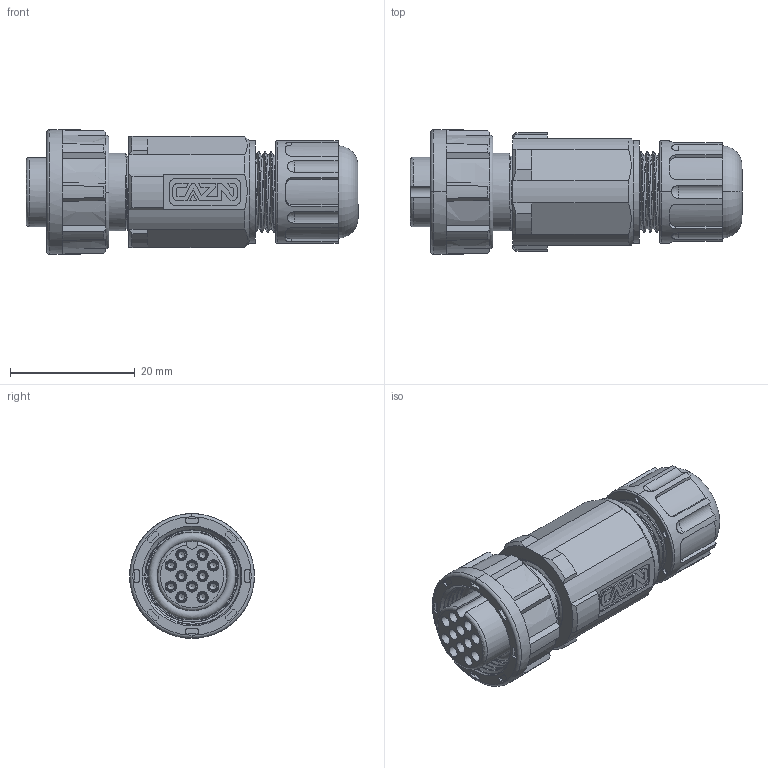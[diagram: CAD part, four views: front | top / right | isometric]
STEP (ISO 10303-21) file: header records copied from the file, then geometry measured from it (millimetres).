
FILE_DESCRIPTION(/* description */ (''),/* implementation_level */ '2;1');
FILE_NAME(/* name */ 'E10P-TA1-S12.stp',/* time_stamp */ '2022-11-01T19:49:52+08:00',/* author */ (''),/* organization */ (''),/* preprocessor_version */ 'ST-DEVELOPER v16.7',/* originating_system */ 'SIEMENS PLM Software NX 1847',/* authorisation */ '');
FILE_SCHEMA (('AUTOMOTIVE_DESIGN { 1 0 10303 214 3 1 1 1 }'));
Length unit declared in the file: millimetre
Products named in the file (11): E10 插头主体; E10 紧锁螺帽; E10 组装式防水硅胶塞; E10 组装式主体防水垫片 Φ1
2×Φ9.3-2; E10 孔型插头外壳 12芯; E10 螺纹式连接螺帽; T-E006-L E系列  1.0 焊线式母针长针; E10 插头胶芯O型防水圈 Φ1
2×Φ9×1.5; E10 塑料主体套件半成品; E10 螺纹式孔型插头半成品 12芯; E10P-TA1-S12
Assembly tree (21 placements, depth 3):
  E10P-TA1-S12
    E10 螺纹式孔型插头半成品 12芯
      E10 插头胶芯O型防水圈 Φ1
2×Φ9×1.5
      T-E006-L E系列  1.0 焊线式母针长针  x12
      E10 螺纹式连接螺帽
      E10 孔型插头外壳 12芯
    E10 塑料主体套件半成品
      E10 组装式主体防水垫片 Φ1
2×Φ9.3-2
      E10 组装式防水硅胶塞
      E10 紧锁螺帽
      E10 插头主体
Bounding box: 53.25 x 20 x 20 mm (x, y, z)
Volume: 8659 mm3; surface area: 12226.3 mm2
Topology: 19 solids, 19 shells, 887 faces, 2350 edges, 1526 vertices
Faces by surface type: plane 394, cylinder 308, cone 133, bspline 24, torus 22, sphere 6
Full cylindrical faces by diameter (mm): 1.1 x24, 1.65 x12, 1.7 x24, 1.76 x12, 1.8 x12, 6.5 x1, 7.8 x1, 8 x1, 9 x3, 10.5 x1, 11.15 x1, 11.4 x1, 11.9 x7, 12 x6, 12.5 x6, 13 x5, 16.5 x1
Entity records: 27246 total; most frequent: CARTESIAN_POINT 13262, ORIENTED_EDGE 2878, DIRECTION 2786, EDGE_CURVE 1439, AXIS2_PLACEMENT_3D 1071, VERTEX_POINT 959, EDGE_LOOP 667, LINE 644
